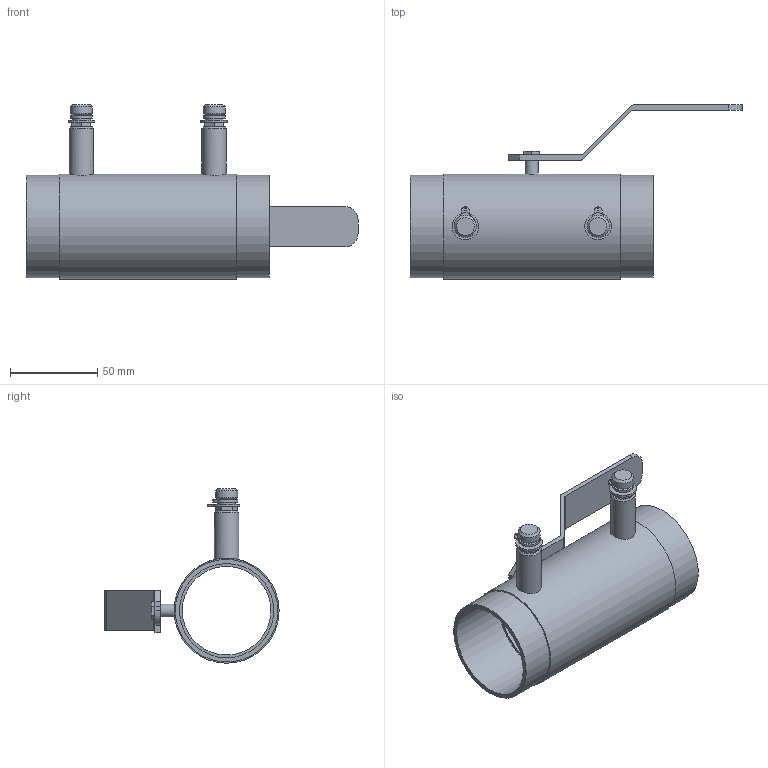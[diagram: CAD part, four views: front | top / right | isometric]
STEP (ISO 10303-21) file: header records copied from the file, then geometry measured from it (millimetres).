
FILE_DESCRIPTION(/* description */ ('VIC BALANCING VALVE SERIES 78BL (SWT)','CAx-IF Rec.Pracs.---Representation and Presentation of Product Manufacturing Information (PMI)---4.0---2014-10-13'),/* implementation_level */ '2;1');
FILE_NAME(/* name */ 'C:\Users\kkamble\Desktop\New folder (12)\New folder\step\Victaulic-IPS-TA Balancing Ball Valve Series 78BL (SWT)\Victaulic-IPS-TA Balancing Ball Valve Series 78BL (SWT)_2 (50).stp',/* time_stamp */ '2020-10-13T18:39:24+05:00',/* author */ ('kkamble'),/* organization */ ('Victaulic'),/* preprocessor_version */ 'ST-DEVELOPER v17.2',/* originating_system */ 'Autodesk Inventor 2019',/* authorisation */ '');
FILE_SCHEMA (('AP242_MANAGED_MODEL_BASED_3D_ENGINEERING_MIM_LF { 1 0 10303 442 1 1 4 }'));
Length unit declared in the file: inch
Products named in the file (1): 78BL-02.0
Bounding box: 190.5 x 100.01 x 100.14 mm (x, y, z)
Volume: 113015 mm3; surface area: 62679.9 mm2
Topology: 1 solids, 1 shells, 117 faces, 307 edges, 195 vertices
Faces by surface type: plane 78, cylinder 33, cone 6
Full cylindrical faces by diameter (mm): 4.318 x1, 7.62 x1, 10.16 x2, 12.7 x2, 13.97 x2, 50.8 x1, 54.051 x2, 58.877 x2, 60.325 x1
Entity records: 4011 total; most frequent: CARTESIAN_POINT 739, DIRECTION 666, ORIENTED_EDGE 614, EDGE_CURVE 307, AXIS2_PLACEMENT_3D 234, LINE 198, VECTOR 198, VERTEX_POINT 195
